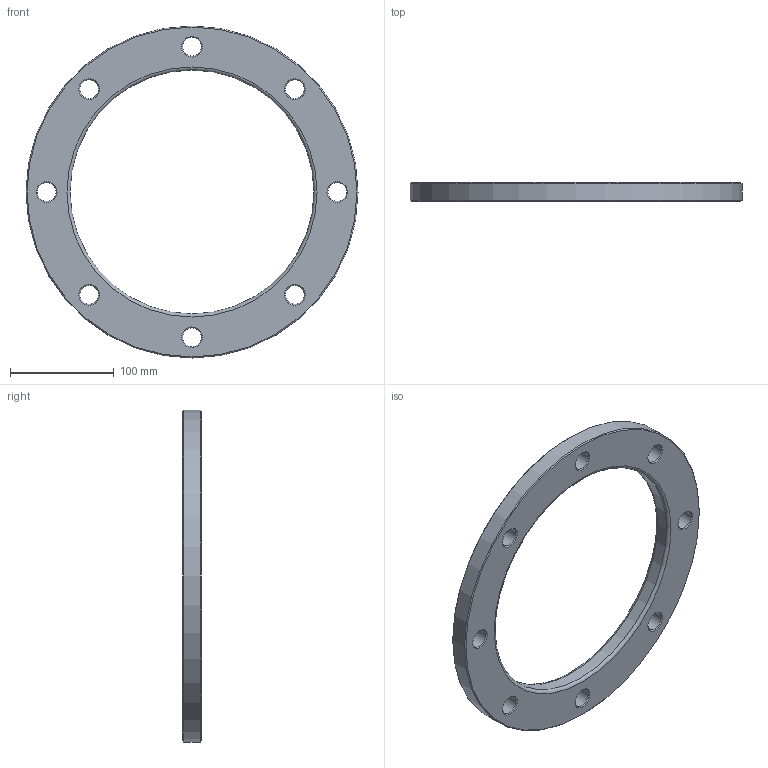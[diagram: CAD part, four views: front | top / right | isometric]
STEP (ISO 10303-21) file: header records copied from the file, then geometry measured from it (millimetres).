
FILE_DESCRIPTION(/* description */ ('Unknown'),/* implementation_level */ '2;1');
FILE_NAME(/* name */ 'FZ200A',/* time_stamp */ '2021-03-13T11:20:14+01:00',/* author */ ('Unknown'),/* organization */ ('Unknown'),/* preprocessor_version */ 'ST-DEVELOPER v16.7',/* originating_system */ 'Solid Edge',/* authorisation */ 'Unknown');
FILE_SCHEMA (('AUTOMOTIVE_DESIGN {1 0 10303 214 3 1 1}'));
Length unit declared in the file: millimetre
Products named in the file (1): FZ200A
Bounding box: 320 x 18 x 320 mm (x, y, z)
Volume: 625936.9 mm3; surface area: 105975.5 mm2
Topology: 1 solids, 1 shells, 32 faces, 94 edges, 64 vertices
Faces by surface type: cone 18, cylinder 10, plane 2, torus 2
Full cylindrical faces by diameter (mm): 18 x8, 235 x1, 320 x1
Entity records: 790 total; most frequent: DIRECTION 146, CARTESIAN_POINT 113, ORIENTED_EDGE 80, EDGE_LOOP 80, FACE_BOUND 80, AXIS2_PLACEMENT_3D 73, EDGE_CURVE 40, VERTEX_POINT 40
